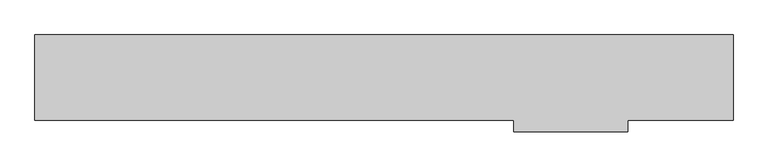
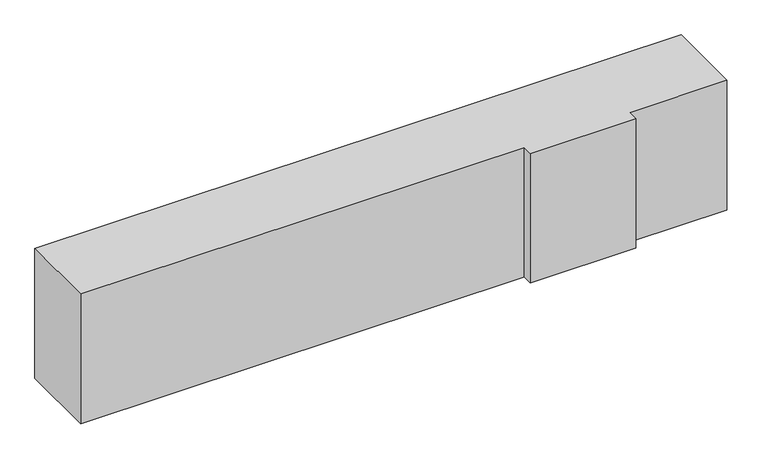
"""IFC4 building model written with IfcOpenShell, lengths in millimetres: proxy geometry."""

from ifc_helpers import new_model, si_unit, origin, origin_with_axes, place, context, project, spatial, polyline, outline, extrude, source, transform, mapped, element, save


def generic_models_cb97754b(model_context):
    return source(origin(), model_context, "Body", "SweptSolid", [
        extrude(outline(polyline([(-96544.9987767, -19100.7903364), (-96544.9987767, -17599.999999), (-84294.9987767, -17599.999999), (-84294.9987767, -19100.7903364), (-86139.873809, -19100.7903364), (-86139.873809, -19300.7903364), (-88139.873809, -19300.7903364), (-88139.873809, -19100.7903364), (-96544.9987767, -19100.7903364)])), origin_with_axes(), (0.0, 0.0, 1.0), 2600.0),
    ])


if __name__ == "__main__":
    model = new_model("IFC4")
    model_context = context("Model", 3, world=origin())
    ifc_project = project(units=[si_unit("LENGTHUNIT", "METRE", prefix="MILLI")], contexts=[model_context])
    site = spatial("IfcSite", under=ifc_project)
    building = spatial("IfcBuilding", under=site)
    placement = place(None, origin())
    generic_models_shape = generic_models_cb97754b(model_context)
    element("IfcBuildingElementProxy", 1, Name="Generic Models", at=placement, inside=building, context=model_context, shape_type="MappedRepresentation", body=[
        mapped(generic_models_shape, transform((0.0, 0.0, 0.0), x_axis=(1.0, 0.0, 0.0), y_axis=(0.0, 1.0, 0.0), z_axis=(0.0, 0.0, 1.0))),
    ])
    save(model, "model.ifc")
